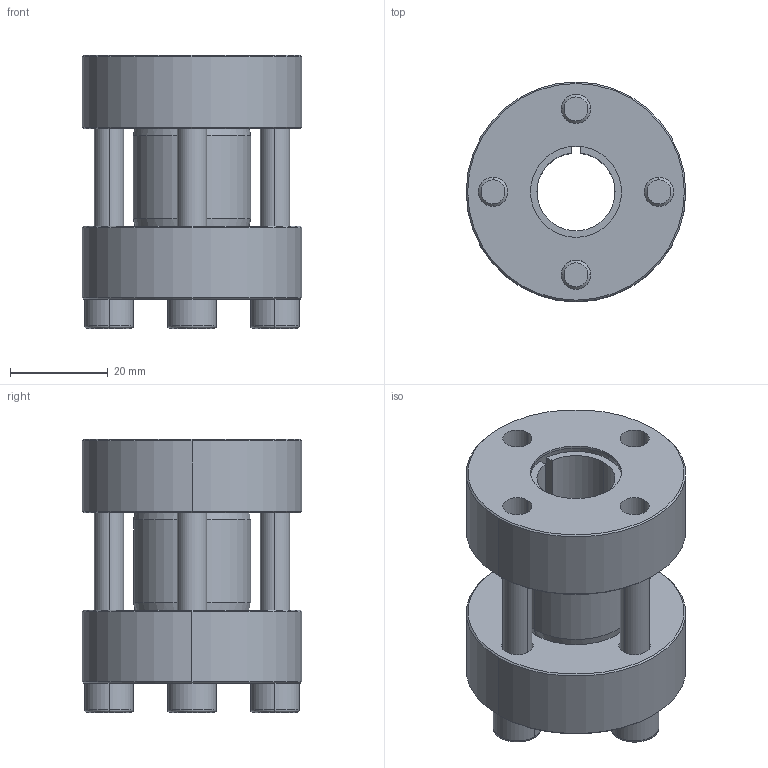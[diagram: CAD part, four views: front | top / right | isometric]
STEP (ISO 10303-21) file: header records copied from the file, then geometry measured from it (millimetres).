
FILE_DESCRIPTION (( 'STEP AP214' ), '1' );
FILE_NAME ('CONEX-M-16x45-M.006.step', '2014-07-01T12:12:29', ( 'Pc' ), ( '' ), 'SwSTEP 2.0', 'SolidWorks 2013', '' );
FILE_SCHEMA (( 'AUTOMOTIVE_DESIGN' ));
Length unit declared in the file: millimetre
Products named in the file (1): CONEX-M-16x45-M.006
Bounding box: 45 x 45 x 55.97 mm (x, y, z)
Volume: 49102.3 mm3; surface area: 23861.2 mm2
Topology: 7 solids, 7 shells, 164 faces, 366 edges, 216 vertices
Faces by surface type: plane 68, cylinder 46, cone 34, torus 16
Entity records: 6423 total; most frequent: DIRECTION 858, CARTESIAN_POINT 766, ORIENTED_EDGE 716, EDGE_CURVE 358, AXIS2_PLACEMENT_3D 339, VERTEX_POINT 216, EDGE_LOOP 192, VECTOR 180
